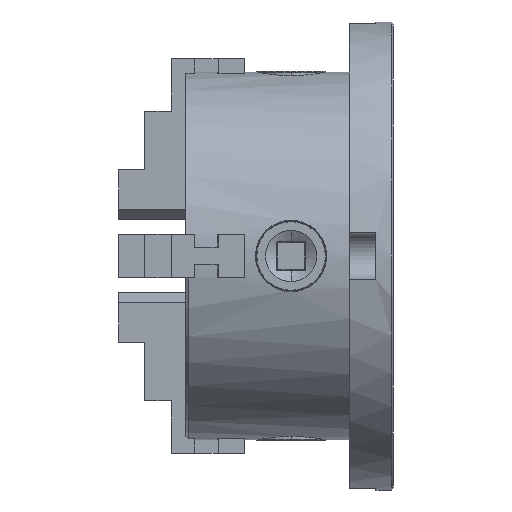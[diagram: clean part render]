
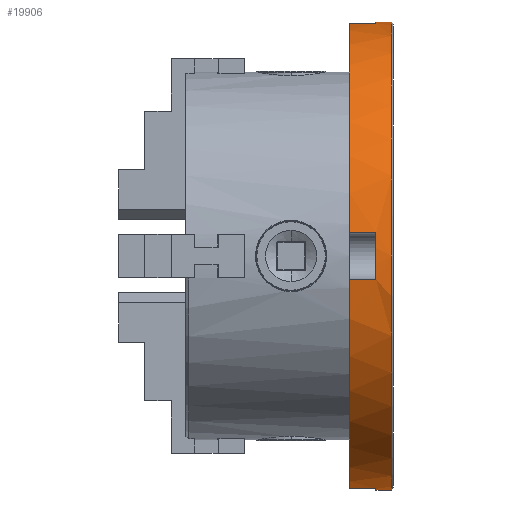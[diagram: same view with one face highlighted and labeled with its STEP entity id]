
A CAD part, left-side view. The second image highlights one B-rep face of the part: STEP entity #19906.
In plain terms, the highlighted cylindrical face has radius 80 mm (diameter 160 mm), a partial arc.
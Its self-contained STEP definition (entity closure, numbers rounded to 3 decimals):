
#624 = CARTESIAN_POINT ( 'NONE',  ( 0., 15., 80. ) ) ;
#625 = DIRECTION ( 'NONE',  ( 0., -1., 0. ) ) ;
#626 = CARTESIAN_POINT ( 'NONE',  ( 0., 15., -80. ) ) ;
#628 = DIRECTION ( 'NONE',  ( 0., -1., 0. ) ) ;
#1918 = AXIS2_PLACEMENT_3D ( 'NONE', #13815, #13816, #13817 ) ;
#1919 = AXIS2_PLACEMENT_3D ( 'NONE', #13812, #13813, #13814 ) ;
#1920 = AXIS2_PLACEMENT_3D ( 'NONE', #13805, #13806, #13807 ) ;
#1921 = AXIS2_PLACEMENT_3D ( 'NONE', #13799, #13800, #13801 ) ;
#1924 = AXIS2_PLACEMENT_3D ( 'NONE', #13783, #13784, #13785 ) ;
#1926 = AXIS2_PLACEMENT_3D ( 'NONE', #13773, #13774, #13775 ) ;
#2130 = EDGE_CURVE ( 'NONE', #14569, #14630, #5054, .T. ) ;
#2131 = EDGE_CURVE ( 'NONE', #14537, #14641, #5056, .T. ) ;
#5053 = VECTOR ( 'NONE', #625, 1000. ) ;
#5054 = LINE ( 'NONE', #624, #5053 ) ;
#5056 = LINE ( 'NONE', #626, #5058 ) ;
#5058 = VECTOR ( 'NONE', #628, 1000. ) ;
#5379 = CIRCLE ( 'NONE', #1926, 80. ) ;
#5385 = CIRCLE ( 'NONE', #1924, 80. ) ;
#5394 = CIRCLE ( 'NONE', #1921, 80. ) ;
#5396 = LINE ( 'NONE', #13804, #5404 ) ;
#5397 = LINE ( 'NONE', #13793, #5399 ) ;
#5398 = LINE ( 'NONE', #13802, #5401 ) ;
#5399 = VECTOR ( 'NONE', #13794, 1000. ) ;
#5400 = CIRCLE ( 'NONE', #1920, 80. ) ;
#5401 = VECTOR ( 'NONE', #13803, 1000. ) ;
#5403 = LINE ( 'NONE', #13808, #5406 ) ;
#5404 = VECTOR ( 'NONE', #13798, 1000. ) ;
#5405 = CIRCLE ( 'NONE', #1919, 80. ) ;
#5406 = VECTOR ( 'NONE', #13809, 1000. ) ;
#5407 = CIRCLE ( 'NONE', #1918, 80. ) ;
#6083 = EDGE_CURVE ( 'NONE', #11016, #11019, #5379, .T. ) ;
#6092 = EDGE_CURVE ( 'NONE', #11018, #11024, #5385, .T. ) ;
#6109 = EDGE_CURVE ( 'NONE', #11026, #14569, #5394, .T. ) ;
#6111 = EDGE_CURVE ( 'NONE', #11026, #11024, #5397, .T. ) ;
#6114 = EDGE_CURVE ( 'NONE', #11018, #11027, #5398, .T. ) ;
#6116 = EDGE_CURVE ( 'NONE', #11029, #11027, #5400, .T. ) ;
#6118 = EDGE_CURVE ( 'NONE', #11029, #11019, #5396, .T. ) ;
#6121 = EDGE_CURVE ( 'NONE', #11016, #11017, #5403, .T. ) ;
#6123 = EDGE_CURVE ( 'NONE', #14537, #11017, #5405, .T. ) ;
#6125 = EDGE_CURVE ( 'NONE', #14641, #14630, #5407, .T. ) ;
#10207 = ORIENTED_EDGE ( 'NONE', *, *, #2130, .F. ) ;
#10208 = ORIENTED_EDGE ( 'NONE', *, *, #6109, .F. ) ;
#10209 = ORIENTED_EDGE ( 'NONE', *, *, #6111, .T. ) ;
#10210 = ORIENTED_EDGE ( 'NONE', *, *, #6092, .F. ) ;
#10211 = ORIENTED_EDGE ( 'NONE', *, *, #6114, .T. ) ;
#10212 = ORIENTED_EDGE ( 'NONE', *, *, #6116, .F. ) ;
#10213 = ORIENTED_EDGE ( 'NONE', *, *, #6118, .T. ) ;
#10214 = ORIENTED_EDGE ( 'NONE', *, *, #6083, .F. ) ;
#10215 = ORIENTED_EDGE ( 'NONE', *, *, #6121, .T. ) ;
#10216 = ORIENTED_EDGE ( 'NONE', *, *, #6123, .F. ) ;
#10217 = ORIENTED_EDGE ( 'NONE', *, *, #2131, .T. ) ;
#10218 = ORIENTED_EDGE ( 'NONE', *, *, #6125, .T. ) ;
#10658 = EDGE_LOOP ( 'NONE', ( #10207, #10208, #10209, #10210, #10211, #10212, #10213, #10214, #10215, #10216, #10217, #10218 ) ) ;
#11016 = VERTEX_POINT ( 'NONE', #14485 ) ;
#11017 = VERTEX_POINT ( 'NONE', #14487 ) ;
#11018 = VERTEX_POINT ( 'NONE', #14489 ) ;
#11019 = VERTEX_POINT ( 'NONE', #14491 ) ;
#11024 = VERTEX_POINT ( 'NONE', #14500 ) ;
#11026 = VERTEX_POINT ( 'NONE', #14504 ) ;
#11027 = VERTEX_POINT ( 'NONE', #14506 ) ;
#11029 = VERTEX_POINT ( 'NONE', #14509 ) ;
#13773 = CARTESIAN_POINT ( 'NONE',  ( 0., 15., 0. ) ) ;
#13774 = DIRECTION ( 'NONE',  ( 0., 1., 0. ) ) ;
#13775 = DIRECTION ( 'NONE',  ( 0., 0., 1. ) ) ;
#13783 = CARTESIAN_POINT ( 'NONE',  ( 0., 15., 0. ) ) ;
#13784 = DIRECTION ( 'NONE',  ( 0., 1., 0. ) ) ;
#13785 = DIRECTION ( 'NONE',  ( 0., 0., 1. ) ) ;
#13793 = CARTESIAN_POINT ( 'NONE',  ( -8., 15., 79.599 ) ) ;
#13794 = DIRECTION ( 'NONE',  ( 0., 1., 0. ) ) ;
#13798 = DIRECTION ( 'NONE',  ( 0., 1., 0. ) ) ;
#13799 = CARTESIAN_POINT ( 'NONE',  ( 0., 6., 0. ) ) ;
#13800 = DIRECTION ( 'NONE',  ( 0., 1., 0. ) ) ;
#13801 = DIRECTION ( 'NONE',  ( 0., 0., 1. ) ) ;
#13802 = CARTESIAN_POINT ( 'NONE',  ( -79.599, 15., 8. ) ) ;
#13803 = DIRECTION ( 'NONE',  ( 0., -1., 0. ) ) ;
#13804 = CARTESIAN_POINT ( 'NONE',  ( -79.599, 15., -8. ) ) ;
#13805 = CARTESIAN_POINT ( 'NONE',  ( 0., 6., 0. ) ) ;
#13806 = DIRECTION ( 'NONE',  ( 0., 1., 0. ) ) ;
#13807 = DIRECTION ( 'NONE',  ( 0., 0., 1. ) ) ;
#13808 = CARTESIAN_POINT ( 'NONE',  ( -8., 15., -79.599 ) ) ;
#13809 = DIRECTION ( 'NONE',  ( 0., -1., 0. ) ) ;
#13812 = CARTESIAN_POINT ( 'NONE',  ( 0., 6., 0. ) ) ;
#13813 = DIRECTION ( 'NONE',  ( 0., 1., 0. ) ) ;
#13814 = DIRECTION ( 'NONE',  ( 0., 0., 1. ) ) ;
#13815 = CARTESIAN_POINT ( 'NONE',  ( 0., 0.577, 0. ) ) ;
#13816 = DIRECTION ( 'NONE',  ( 0., 1., 0. ) ) ;
#13817 = DIRECTION ( 'NONE',  ( 0., 0., 1. ) ) ;
#14485 = CARTESIAN_POINT ( 'NONE',  ( -8., 15., -79.599 ) ) ;
#14487 = CARTESIAN_POINT ( 'NONE',  ( -8., 6., -79.599 ) ) ;
#14489 = CARTESIAN_POINT ( 'NONE',  ( -79.599, 15., 8. ) ) ;
#14491 = CARTESIAN_POINT ( 'NONE',  ( -79.599, 15., -8. ) ) ;
#14500 = CARTESIAN_POINT ( 'NONE',  ( -8., 15., 79.599 ) ) ;
#14504 = CARTESIAN_POINT ( 'NONE',  ( -8., 6., 79.599 ) ) ;
#14506 = CARTESIAN_POINT ( 'NONE',  ( -79.599, 6., 8. ) ) ;
#14509 = CARTESIAN_POINT ( 'NONE',  ( -79.599, 6., -8. ) ) ;
#14537 = VERTEX_POINT ( 'NONE', #18786 ) ;
#14569 = VERTEX_POINT ( 'NONE', #18818 ) ;
#14630 = VERTEX_POINT ( 'NONE', #18879 ) ;
#14641 = VERTEX_POINT ( 'NONE', #18890 ) ;
#15791 = AXIS2_PLACEMENT_3D ( 'NONE', #21095, #21091, #21092 ) ;
#18786 = CARTESIAN_POINT ( 'NONE',  ( 0., 6., -80. ) ) ;
#18818 = CARTESIAN_POINT ( 'NONE',  ( 0., 6., 80. ) ) ;
#18879 = CARTESIAN_POINT ( 'NONE',  ( 0., 0.577, 80. ) ) ;
#18890 = CARTESIAN_POINT ( 'NONE',  ( 0., 0.577, -80. ) ) ;
#19906 = ADVANCED_FACE ( 'NONE', ( #20033 ), #20036, .T. ) ;
#20033 = FACE_OUTER_BOUND ( 'NONE', #10658, .T. ) ;
#20036 = CYLINDRICAL_SURFACE ( 'NONE', #15791, 80. ) ;
#21091 = DIRECTION ( 'NONE',  ( 0., -1., 0. ) ) ;
#21092 = DIRECTION ( 'NONE',  ( 0., 0., -1. ) ) ;
#21095 = CARTESIAN_POINT ( 'NONE',  ( 0., 15., 0. ) ) ;
